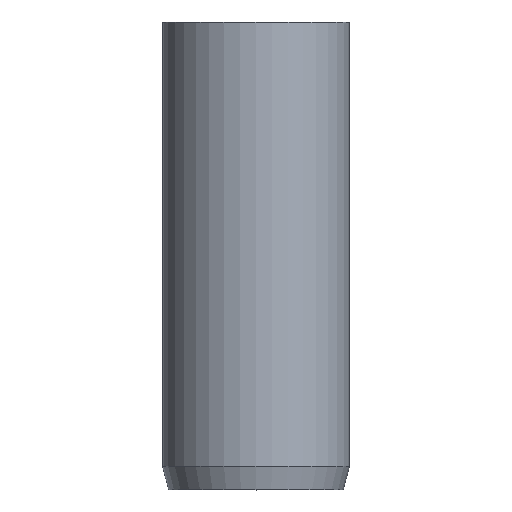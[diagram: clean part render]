
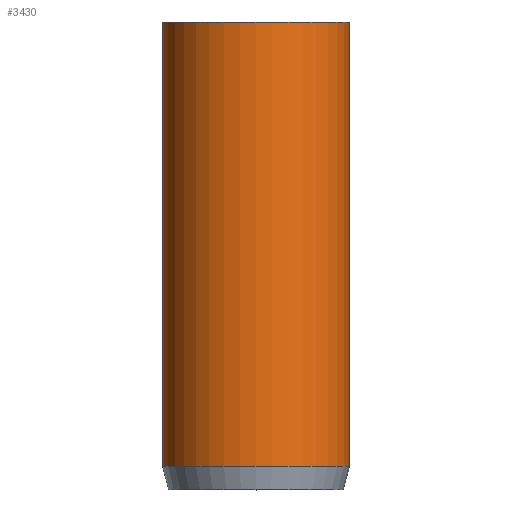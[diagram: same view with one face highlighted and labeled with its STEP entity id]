
A CAD part, top view. The second image highlights one B-rep face of the part: STEP entity #3430.
In plain terms, the highlighted cylindrical face has radius 2 mm (diameter 4 mm), a full revolution.
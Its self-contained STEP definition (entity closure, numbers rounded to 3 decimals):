
#333 = CYLINDRICAL_SURFACE ( 'NONE', #3076, 2. ) ;
#515 = CIRCLE ( 'NONE', #2394, 2. ) ;
#533 = EDGE_LOOP ( 'NONE', ( #3413 ) ) ;
#570 = FACE_OUTER_BOUND ( 'NONE', #1301, .T. ) ;
#601 = CARTESIAN_POINT ( 'NONE',  ( 2., 10., 0. ) ) ;
#619 = CARTESIAN_POINT ( 'NONE',  ( -2., 0.5, 0. ) ) ;
#784 = DIRECTION ( 'NONE',  ( 0., 1., 0. ) ) ;
#1061 = ORIENTED_EDGE ( 'NONE', *, *, #2712, .T. ) ;
#1088 = CARTESIAN_POINT ( 'NONE',  ( 0., 10., 0. ) ) ;
#1241 = DIRECTION ( 'NONE',  ( 1., 0., 0. ) ) ;
#1301 = EDGE_LOOP ( 'NONE', ( #1061 ) ) ;
#1455 = DIRECTION ( 'NONE',  ( 1., 0., 0. ) ) ;
#1814 = DIRECTION ( 'NONE',  ( 0., -1., 0. ) ) ;
#2257 = FACE_OUTER_BOUND ( 'NONE', #533, .T. ) ;
#2339 = CARTESIAN_POINT ( 'NONE',  ( 0., 0., 0. ) ) ;
#2394 = AXIS2_PLACEMENT_3D ( 'NONE', #3475, #784, #2636 ) ;
#2622 = EDGE_CURVE ( 'NONE', #4131, #4131, #3284, .T. ) ;
#2636 = DIRECTION ( 'NONE',  ( -1., 0., 0. ) ) ;
#2712 = EDGE_CURVE ( 'NONE', #4188, #4188, #515, .T. ) ;
#3076 = AXIS2_PLACEMENT_3D ( 'NONE', #2339, #3544, #1241 ) ;
#3284 = CIRCLE ( 'NONE', #3775, 2. ) ;
#3413 = ORIENTED_EDGE ( 'NONE', *, *, #2622, .T. ) ;
#3430 = ADVANCED_FACE ( 'NONE', ( #570, #2257 ), #333, .T. ) ;
#3475 = CARTESIAN_POINT ( 'NONE',  ( 0., 0.5, 0. ) ) ;
#3544 = DIRECTION ( 'NONE',  ( 0., -1., 0. ) ) ;
#3775 = AXIS2_PLACEMENT_3D ( 'NONE', #1088, #1814, #1455 ) ;
#4131 = VERTEX_POINT ( 'NONE', #601 ) ;
#4188 = VERTEX_POINT ( 'NONE', #619 ) ;
